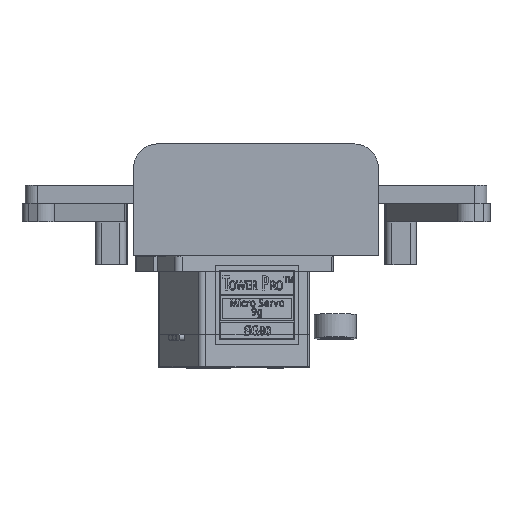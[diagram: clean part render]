
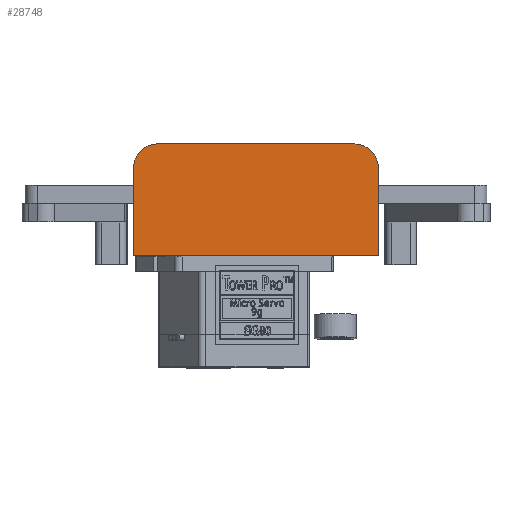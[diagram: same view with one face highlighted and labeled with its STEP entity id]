
A CAD part, front view. The second image highlights one B-rep face of the part: STEP entity #28748.
In plain terms, the highlighted planar face has unit normal (0, -1, 0).
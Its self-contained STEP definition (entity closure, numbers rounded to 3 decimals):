
#2015=PLANE('',#30913);
#3329=FACE_OUTER_BOUND('',#4813,.T.);
#4813=EDGE_LOOP('',(#26459,#26460,#26461,#26462,#26463,#26464));
#7346=LINE('',#85859,#10012);
#7349=LINE('',#85865,#10015);
#7350=LINE('',#85867,#10016);
#7351=LINE('',#85869,#10017);
#10012=VECTOR('',#37386,10.);
#10015=VECTOR('',#37391,10.);
#10016=VECTOR('',#37392,10.);
#10017=VECTOR('',#37393,10.);
#11085=CIRCLE('',#30910,4.);
#11087=CIRCLE('',#30914,4.);
#14026=VERTEX_POINT('',#85849);
#14027=VERTEX_POINT('',#85850);
#14030=VERTEX_POINT('',#85858);
#14032=VERTEX_POINT('',#85864);
#14033=VERTEX_POINT('',#85866);
#14034=VERTEX_POINT('',#85868);
#18205=EDGE_CURVE('',#14026,#14027,#11085,.T.);
#18209=EDGE_CURVE('',#14027,#14030,#7346,.T.);
#18212=EDGE_CURVE('',#14032,#14026,#7349,.T.);
#18213=EDGE_CURVE('',#14033,#14032,#7350,.T.);
#18214=EDGE_CURVE('',#14033,#14034,#7351,.T.);
#18215=EDGE_CURVE('',#14030,#14034,#11087,.T.);
#26459=ORIENTED_EDGE('',*,*,#18205,.F.);
#26460=ORIENTED_EDGE('',*,*,#18212,.F.);
#26461=ORIENTED_EDGE('',*,*,#18213,.F.);
#26462=ORIENTED_EDGE('',*,*,#18214,.T.);
#26463=ORIENTED_EDGE('',*,*,#18215,.F.);
#26464=ORIENTED_EDGE('',*,*,#18209,.F.);
#28748=ADVANCED_FACE('',(#3329),#2015,.T.);
#30910=AXIS2_PLACEMENT_3D('',#85851,#37378,#37379);
#30913=AXIS2_PLACEMENT_3D('',#85863,#37389,#37390);
#30914=AXIS2_PLACEMENT_3D('',#85870,#37394,#37395);
#37378=DIRECTION('center_axis',(0.,1.,0.));
#37379=DIRECTION('ref_axis',(-0.707,0.,0.707));
#37386=DIRECTION('',(1.,0.,0.));
#37389=DIRECTION('center_axis',(0.,-1.,0.));
#37390=DIRECTION('ref_axis',(1.,0.,0.));
#37391=DIRECTION('',(0.,0.,1.));
#37392=DIRECTION('',(-1.,0.,0.));
#37393=DIRECTION('',(0.,0.,1.));
#37394=DIRECTION('center_axis',(0.,1.,0.));
#37395=DIRECTION('ref_axis',(0.707,0.,0.707));
#85849=CARTESIAN_POINT('',(-20.,-17.5,14.3));
#85850=CARTESIAN_POINT('',(-16.,-17.5,18.3));
#85851=CARTESIAN_POINT('Origin',(-16.,-17.5,14.3));
#85858=CARTESIAN_POINT('',(16.,-17.5,18.3));
#85859=CARTESIAN_POINT('',(20.,-17.5,18.3));
#85863=CARTESIAN_POINT('Origin',(-20.,-17.5,0.));
#85864=CARTESIAN_POINT('',(-20.,-17.5,0.));
#85865=CARTESIAN_POINT('',(-20.,-17.5,0.));
#85866=CARTESIAN_POINT('',(20.,-17.5,0.));
#85867=CARTESIAN_POINT('',(20.,-17.5,0.));
#85868=CARTESIAN_POINT('',(20.,-17.5,14.3));
#85869=CARTESIAN_POINT('',(20.,-17.5,0.));
#85870=CARTESIAN_POINT('Origin',(16.,-17.5,14.3));
